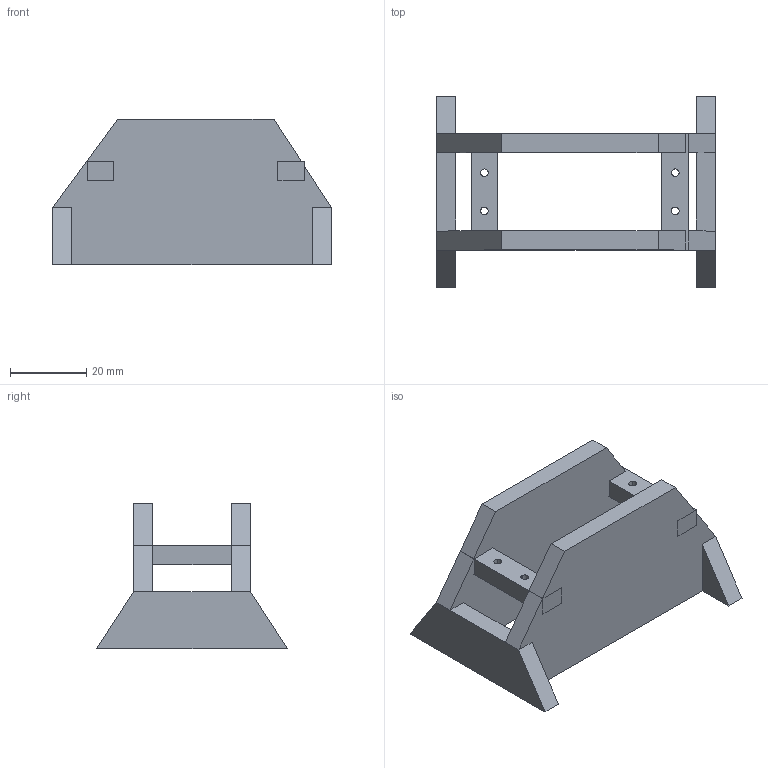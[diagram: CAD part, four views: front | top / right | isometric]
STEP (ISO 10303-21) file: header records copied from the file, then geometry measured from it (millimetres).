
FILE_DESCRIPTION(('STEP AP214'),'1');
FILE_NAME('tmp0.STEP','2026-07-09T18:50:55',(' '),(' '),'Spatial InterOp 3D',' ',' ');
FILE_SCHEMA(('AUTOMOTIVE_DESIGN { 1 0 10303 214 1 1 1 1 }'));
Length unit declared in the file: millimetre
Products named in the file (1): 1
Bounding box: 73 x 50 x 38.13 mm (x, y, z)
Volume: 30050.7 mm3; surface area: 16507.2 mm2
Topology: 6 solids, 6 shells, 70 faces, 174 edges, 116 vertices
Faces by surface type: plane 62, cylinder 8
Entity records: 2163 total; most frequent: CARTESIAN_POINT 366, ORIENTED_EDGE 348, DIRECTION 342, EDGE_CURVE 174, LINE 158, VECTOR 158, VERTEX_POINT 116, AXIS2_PLACEMENT_3D 92
